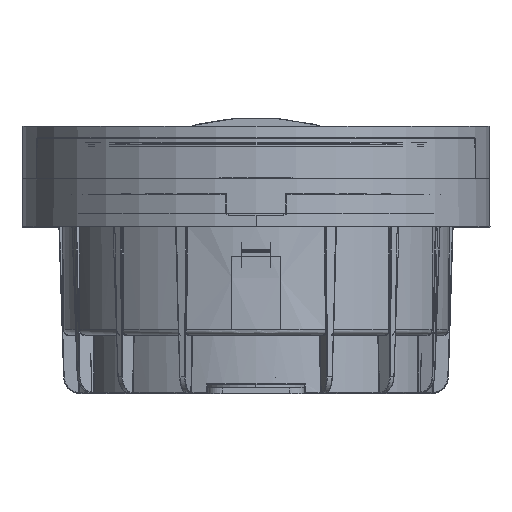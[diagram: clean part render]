
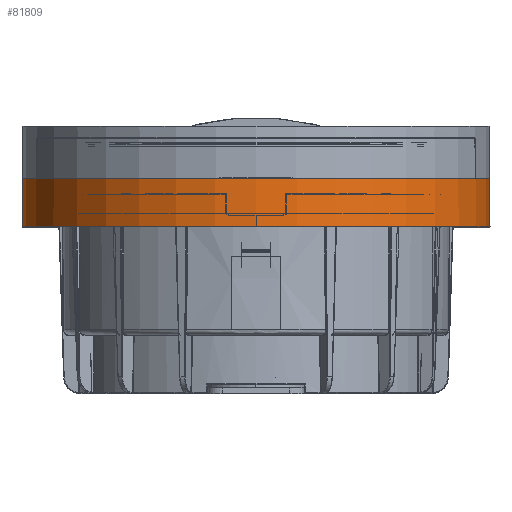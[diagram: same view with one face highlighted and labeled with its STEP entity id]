
A CAD part, left-side view. The second image highlights one B-rep face of the part: STEP entity #81809.
In plain terms, the highlighted conical face has half-angle 0.5 degrees and reference radius 79.928 mm.
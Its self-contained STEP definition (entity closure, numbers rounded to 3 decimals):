
#76610=CARTESIAN_POINT('',(-0.001,-0.979,
-9.254));
#76611=DIRECTION('',(0.,0.,1.));
#76612=DIRECTION('',(1.,0.,0.));
#76613=AXIS2_PLACEMENT_3D('',#76610,#76611,#76612);
#76625=DIRECTION('',(0.009,0.,-1.));
#76626=VECTOR('',#76625,16.501);
#76627=CARTESIAN_POINT('',(79.855,-0.979,
7.246));
#76628=LINE('',#76627,#76626);
#76639=DIRECTION('',(-0.009,0.,-1.));
#76640=VECTOR('',#76639,16.501);
#76641=CARTESIAN_POINT('',(-79.857,-0.979,
7.246));
#76642=LINE('',#76641,#76640);
#76652=CARTESIAN_POINT('',(-0.001,-0.979,
7.246));
#76653=DIRECTION('',(0.,0.,-1.));
#76654=DIRECTION('',(-1.,0.,0.));
#76655=AXIS2_PLACEMENT_3D('',#76652,#76653,#76654);
#79397=CARTESIAN_POINT('',(-80.001,-0.979,
-9.254));
#79398=CARTESIAN_POINT('',(79.999,-0.979,
-9.254));
#79399=VERTEX_POINT('',#79397);
#79400=VERTEX_POINT('',#79398);
#79401=CARTESIAN_POINT('',(79.855,-0.979,
7.246));
#79402=VERTEX_POINT('',#79401);
#79403=CARTESIAN_POINT('',(-79.857,-0.979,
7.246));
#79404=VERTEX_POINT('',#79403);
#81797=CARTESIAN_POINT('',(-0.001,-0.979,
-1.004));
#81798=DIRECTION('',(0.,0.,-1.));
#81799=DIRECTION('',(-1.,0.,0.));
#81800=AXIS2_PLACEMENT_3D('',#81797,#81798,#81799);
#81801=CONICAL_SURFACE('',#81800,79.928,0.5);
#81803=ORIENTED_EDGE('',*,*,#81802,.F.);
#81804=ORIENTED_EDGE('',*,*,#81782,.T.);
#81805=ORIENTED_EDGE('',*,*,#81765,.F.);
#81806=ORIENTED_EDGE('',*,*,#81779,.F.);
#81807=EDGE_LOOP('',(#81803,#81804,#81805,#81806));
#81808=FACE_OUTER_BOUND('',#81807,.F.);
#81809=ADVANCED_FACE('',(#81808),#81801,.T.);
#76614=CIRCLE('',#76613,80.);
#76656=CIRCLE('',#76655,79.856);
#81765=EDGE_CURVE('',#79400,#79399,#76614,.T.);
#81779=EDGE_CURVE('',#79402,#79400,#76628,.T.);
#81782=EDGE_CURVE('',#79404,#79399,#76642,.T.);
#81802=EDGE_CURVE('',#79404,#79402,#76656,.T.);
